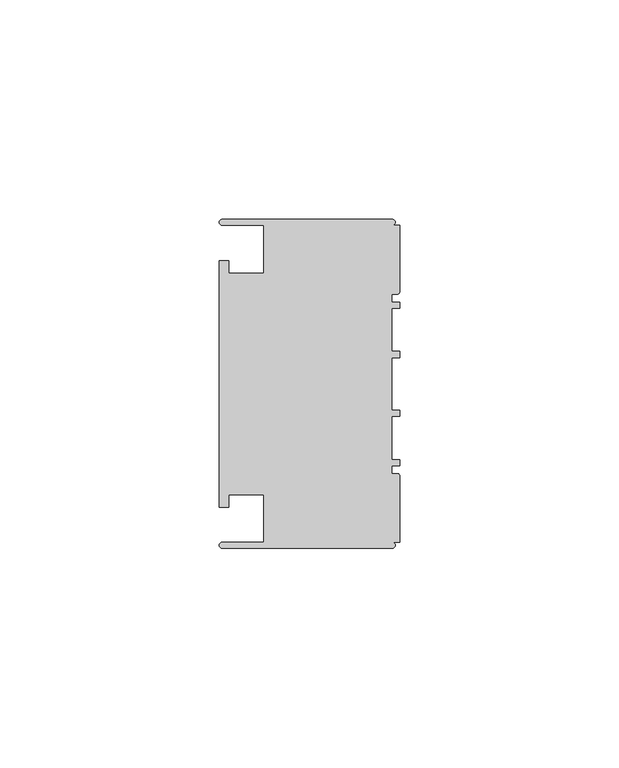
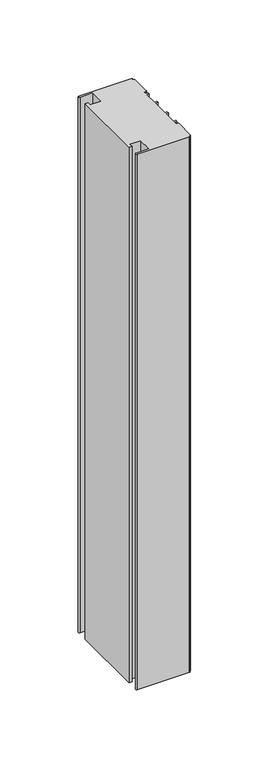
"""IFC4 building model written with IfcOpenShell, lengths in millimetres: member geometry, Прямоугольный импост : 3-AMG-2-Профиль 40Х75 Низ Л."""

import ifcopenshell
import ifcopenshell.guid

model = None  # the IFC model being written
_history = None  # IfcOwnerHistory: only IFC2X3 demands one
_inside = {}  # id of a spatial element -> (the spatial element, [elements in it])
_under = {}  # id of a project, library or spatial element -> (it, [spatial elements below it])
_declared = {}  # id of a project -> (the project, [libraries it declares])
_typed = {}  # id of a type object -> (the type object, [elements of that type])
_made_of = {}  # id of a material, layer set ... -> (it, [elements and type objects made of it])


def new_model(schema):
    """Start an empty IFC model of exactly this schema.

    Asked for "IFC4X3", IfcOpenShell would pick the latest addendum, in which some entities
    have other attributes; the version numbers below select the first issue.
    IFC2X3 requires an IfcOwnerHistory on every rooted entity: one is made here for all.
    """
    global model, _history
    if schema == "IFC4X3":
        model = ifcopenshell.file(schema_version=(4, 3, 0, 0))
    else:
        model = ifcopenshell.file(schema=schema)
    _inside.clear()
    _under.clear()
    _declared.clear()
    _typed.clear()
    _made_of.clear()
    _history = None
    if model.schema == "IFC2X3":
        org = make("IfcOrganization", Name="unknown")
        user = make(
            "IfcPersonAndOrganization",
            ThePerson=make("IfcPerson", FamilyName="unknown"),
            TheOrganization=org,
        )
        app = make(
            "IfcApplication",
            ApplicationDeveloper=org,
            Version="unknown",
            ApplicationFullName="unknown",
            ApplicationIdentifier="unknown",
        )
        _history = make(
            "IfcOwnerHistory",
            OwningUser=user,
            OwningApplication=app,
            ChangeAction="ADDED",
            CreationDate=0,
        )
    return model


def make(cls, **values):
    """One entity of the class cls with the attributes given. An attribute that is None is left unset."""
    return model.create_entity(
        cls, **{name: value for name, value in values.items() if value is not None}
    )


def rooted(cls, **values):
    """An entity with a GlobalId (a new one), such as an element, a storey or a relation."""
    return make(cls, GlobalId=ifcopenshell.guid.new(), OwnerHistory=_history, **values)


def si_unit(unit_type, name, prefix=None):
    """IfcSIUnit, for example si_unit("LENGTHUNIT", "METRE", prefix="MILLI")."""
    return make("IfcSIUnit", UnitType=unit_type, Prefix=prefix, Name=name)


def assignment(units):
    """IfcUnitAssignment: the units of a project."""
    return None if units is None else make("IfcUnitAssignment", Units=units)


def point(xyz):
    """IfcCartesianPoint."""
    return None if xyz is None else make("IfcCartesianPoint", Coordinates=xyz)


def direction(xyz):
    """IfcDirection."""
    return None if xyz is None else make("IfcDirection", DirectionRatios=xyz)


def frame(location, z_axis=None, x_axis=None):
    """IfcAxis2Placement3D, a coordinate frame: its origin and axes. An axis left out is left unset."""
    return make(
        "IfcAxis2Placement3D",
        Location=point(location),
        Axis=direction(z_axis),
        RefDirection=direction(x_axis),
    )


def frame_2d(location, x_axis=None):
    """IfcAxis2Placement2D, a coordinate frame in the plane: its origin and x axis."""
    return make(
        "IfcAxis2Placement2D", Location=point(location), RefDirection=direction(x_axis)
    )


def origin():
    """The frame at (0, 0, 0) with its axes left unset."""
    return frame((0.0, 0.0, 0.0))


def place(relative_to, where):
    """IfcLocalPlacement: puts the frame where relative to a parent placement (None: the world)."""
    return make(
        "IfcLocalPlacement", PlacementRelTo=relative_to, RelativePlacement=where
    )


def context(
    kind, dimensions, precision=None, world=None, true_north=None, identifier=None
):
    """IfcGeometricRepresentationContext, for example the 3D "Model" context."""
    return make(
        "IfcGeometricRepresentationContext",
        ContextIdentifier=identifier,
        ContextType=kind,
        CoordinateSpaceDimension=dimensions,
        Precision=precision,
        WorldCoordinateSystem=world,
        TrueNorth=true_north,
    )


def project(units=None, contexts=None):
    """IfcProject with its units and contexts."""
    return rooted(
        "IfcProject",
        Name="project",
        RepresentationContexts=contexts,
        UnitsInContext=assignment(units),
    )


def spatial(cls, under=None, at=None, **own):
    """A site, building, storey or space (cls), placed at a placement, below another one or the project."""
    s = rooted(cls, ObjectPlacement=at, **own)
    if under is not None:
        _under.setdefault(under.id(), (under, []))[1].append(s)
    return s


def polyline(points):
    """IfcPolyline through the points."""
    return make("IfcPolyline", Points=[point(p) for p in points])


def circle_curve(where, radius):
    """IfcCircle in the frame where."""
    return make("IfcCircle", Position=where, Radius=radius)


def trimmed(basis, trim1, trim2, sense, master):
    """IfcTrimmedCurve: the piece of a basis curve between two trims."""
    return make(
        "IfcTrimmedCurve",
        BasisCurve=basis,
        Trim1=trim1,
        Trim2=trim2,
        SenseAgreement=sense,
        MasterRepresentation=master,
    )


def segment(curve, same_sense, transition):
    """IfcCompositeCurveSegment."""
    return make(
        "IfcCompositeCurveSegment",
        Transition=transition,
        SameSense=same_sense,
        ParentCurve=curve,
    )


def composite_curve(segments, self_intersect=None):
    """IfcCompositeCurve: segments joined end to end."""
    return make("IfcCompositeCurve", Segments=segments, SelfIntersect=self_intersect)


def outline(outer, holes=None, kind="AREA"):
    """IfcArbitraryClosedProfileDef: a profile drawn as a closed curve; with holes, ...WithVoids."""
    if holes is None:
        return make("IfcArbitraryClosedProfileDef", ProfileType=kind, OuterCurve=outer)
    return make(
        "IfcArbitraryProfileDefWithVoids",
        ProfileType=kind,
        OuterCurve=outer,
        InnerCurves=holes,
    )


def extrude(swept, where, along, depth):
    """IfcExtrudedAreaSolid: the profile swept, set in the frame where, extruded along a direction by depth."""
    return make(
        "IfcExtrudedAreaSolid",
        SweptArea=swept,
        Position=where,
        ExtrudedDirection=direction(along),
        Depth=depth,
    )


def shape(context_of_items, identifier, shape_type, items):
    """IfcShapeRepresentation: the items that make up one representation, for example the "Body"."""
    return make(
        "IfcShapeRepresentation",
        ContextOfItems=context_of_items,
        RepresentationIdentifier=identifier,
        RepresentationType=shape_type,
        Items=items,
    )


def source(mapping_origin, context_of_items, identifier, shape_type, items):
    """IfcRepresentationMap: a shape defined once, which mapped items show again and again."""
    return make(
        "IfcRepresentationMap",
        MappingOrigin=mapping_origin,
        MappedRepresentation=shape(context_of_items, identifier, shape_type, items),
    )


def transform(
    local_origin,
    x_axis=None,
    y_axis=None,
    z_axis=None,
    scale=None,
    scale2=None,
    scale3=None,
    uniform=True,
):
    """IfcCartesianTransformationOperator3D, or its non-uniform kind. x_axis, y_axis, z_axis: its Axis1, 2, 3."""
    if uniform:
        return make(
            "IfcCartesianTransformationOperator3D",
            Axis1=direction(x_axis),
            Axis2=direction(y_axis),
            LocalOrigin=point(local_origin),
            Scale=scale,
            Axis3=direction(z_axis),
        )
    return make(
        "IfcCartesianTransformationOperator3DnonUniform",
        Axis1=direction(x_axis),
        Axis2=direction(y_axis),
        LocalOrigin=point(local_origin),
        Scale=scale,
        Axis3=direction(z_axis),
        Scale2=scale2,
        Scale3=scale3,
    )


def mapped(mapping_source, mapping_target):
    """IfcMappedItem: shows the shape of a source again, moved by a transform."""
    return make(
        "IfcMappedItem", MappingSource=mapping_source, MappingTarget=mapping_target
    )


def made_of(thing, what):
    """Note that an element or type object is made of a material, layer set ...; save() writes the relation."""
    if what is not None:
        _made_of.setdefault(what.id(), (what, []))[1].append(thing)
    return thing


def element(
    cls,
    number,
    at=None,
    inside=None,
    cuts=None,
    type_object=None,
    material=None,
    context=None,
    identifier="Body",
    shape_type=None,
    held_by="IfcProductDefinitionShape",
    body=None,
    shapes=None,
    **own,
):
    """One element of the class cls, such as IfcWall. Its Tag is "e" and its number.

    at: its placement. inside: the storey or other place that contains it. cuts: it is an
    opening in that element (IfcRelVoidsElement). A single representation is given by context,
    identifier, shape_type and body (its items); several are given by shapes. held_by: the class
    of the entity that holds the representations. save() writes the other relations.
    """
    e = rooted(cls, Tag="e%d" % number, ObjectPlacement=at, **own)
    if body is not None:
        shapes = [shape(context, identifier, shape_type, body)]
    if shapes is not None:
        e.Representation = make(held_by, Representations=shapes)
    if inside is not None:
        _inside.setdefault(inside.id(), (inside, []))[1].append(e)
    if cuts is not None:
        rooted(
            "IfcRelVoidsElement", RelatingBuildingElement=cuts, RelatedOpeningElement=e
        )
    if type_object is not None:
        _typed.setdefault(type_object.id(), (type_object, []))[1].append(e)
    return made_of(e, material)


def aggregate(whole, parts):
    """IfcRelAggregates: a whole, such as a stair, and the parts it consists of."""
    return rooted("IfcRelAggregates", RelatingObject=whole, RelatedObjects=parts)


def save(model, path):
    """Write the relations noted so far, then the file.

    IfcRelAggregates (storeys below a building ...), IfcRelContainedInSpatialStructure (elements
    in a storey), IfcRelDefinesByType, IfcRelAssociatesMaterial and IfcRelDeclares: one each for
    every whole, place, type object, material and project.
    """
    for whole, parts in _under.values():
        aggregate(whole, parts)
    for where, things in _inside.values():
        rooted(
            "IfcRelContainedInSpatialStructure",
            RelatedElements=things,
            RelatingStructure=where,
        )
    for kind, things in _typed.values():
        rooted("IfcRelDefinesByType", RelatedObjects=things, RelatingType=kind)
    for what, things in _made_of.values():
        rooted("IfcRelAssociatesMaterial", RelatedObjects=things, RelatingMaterial=what)
    for by, libraries in _declared.values():
        rooted("IfcRelDeclares", RelatingContext=by, RelatedDefinitions=libraries)
    model.write(path)


def member_7ab334c5(model_context):
    return source(origin(), model_context, "Body", "SweptSolid", [
        extrude(outline(composite_curve([segment(polyline([(-1.7, -37.5), (-40.4, -37.5)]), True, "CONTINUOUS"), segment(trimmed(circle_curve(frame_2d((-40.4, -36.8)), 0.7), [point((-40.4, -37.5))], [point((-40.4, -36.1))], False, "CARTESIAN"), True, "CONTINUOUS"), segment(polyline([(-40.4, -36.1), (-31.0, -36.1), (-31.0, -25.25), (-39.0, -25.25), (-39.0, -28.1), (-41.1, -28.1), (-41.1, 28.1), (-39.0, 28.1), (-39.0, 25.25), (-31.0, 25.25), (-31.0, 36.1), (-40.4, 36.1)]), True, "CONTINUOUS"), segment(trimmed(circle_curve(frame_2d((-40.4, 36.8)), 0.7), [point((-40.4, 36.1))], [point((-40.4, 37.5))], False, "CARTESIAN"), True, "CONTINUOUS"), segment(polyline([(-40.4, 37.5), (-1.7, 37.5)]), True, "CONTINUOUS"), segment(trimmed(circle_curve(frame_2d((-1.7, 36.8)), 0.7), [point((-1.7, 37.5))], [point((-1.7, 36.1))], False, "CARTESIAN"), True, "CONTINUOUS"), segment(polyline([(-1.7, 36.1), (0.0, 36.1), (0.0, 20.95)]), True, "CONTINUOUS"), segment(trimmed(circle_curve(frame_2d((-0.5, 20.95)), 0.5), [point((0.0, 20.95))], [point((-0.5, 20.45))], False, "CARTESIAN"), True, "CONTINUOUS"), segment(polyline([(-0.5, 20.45), (-1.8, 20.45), (-1.8, 18.65), (0.0, 18.65), (0.0, 17.25), (-1.8, 17.25), (-1.8, 7.4), (0.0, 7.4), (0.0, 6.0), (-1.8, 6.0), (-1.8, -6.0), (0.0, -6.0), (0.0, -7.4), (-1.8, -7.4), (-1.8, -17.25), (0.0, -17.25), (0.0, -18.65), (-1.8, -18.65), (-1.8, -20.45), (-0.5, -20.45)]), True, "CONTINUOUS"), segment(trimmed(circle_curve(frame_2d((-0.5, -20.95)), 0.5), [point((-0.5, -20.45))], [point((0.0, -20.95))], False, "CARTESIAN"), True, "CONTINUOUS"), segment(polyline([(0.0, -20.95), (0.0, -36.1), (-1.7, -36.1)]), True, "CONTINUOUS"), segment(trimmed(circle_curve(frame_2d((-1.7, -36.8)), 0.7), [point((-1.7, -36.1))], [point((-1.7, -37.5))], False, "CARTESIAN"), True, "CONTINUOUS")], self_intersect=False)), frame((0.0, 0.0, -418.9), z_axis=(0.0, 0.0, 1.0), x_axis=(1.0, 0.0, 0.0)), (0.0, 0.0, 1.0), 418.9),
    ])


if __name__ == "__main__":
    model = new_model("IFC4")
    model_context = context("Model", 3, world=origin())
    ifc_project = project(units=[si_unit("LENGTHUNIT", "METRE", prefix="MILLI")], contexts=[model_context])
    site = spatial("IfcSite", under=ifc_project)
    building = spatial("IfcBuilding", under=site)
    placement = place(None, origin())
    member_shape = member_7ab334c5(model_context)
    element("IfcMember", 1, ObjectType="Прямоугольный импост : 3-AMG-2-Профиль 40Х75 Низ Л", at=placement, inside=building, context=model_context, shape_type="MappedRepresentation", body=[
        mapped(member_shape, transform((0.0, 0.0, 0.0), x_axis=(1.0, 0.0, 0.0), y_axis=(0.0, 1.0, 0.0), z_axis=(0.0, 0.0, 1.0))),
    ])
    save(model, "model.ifc")
